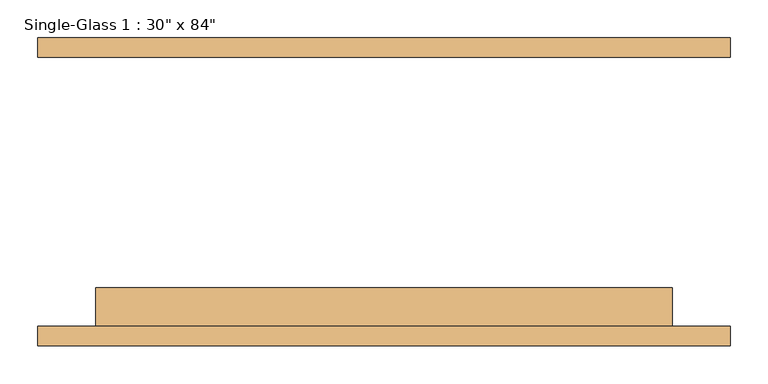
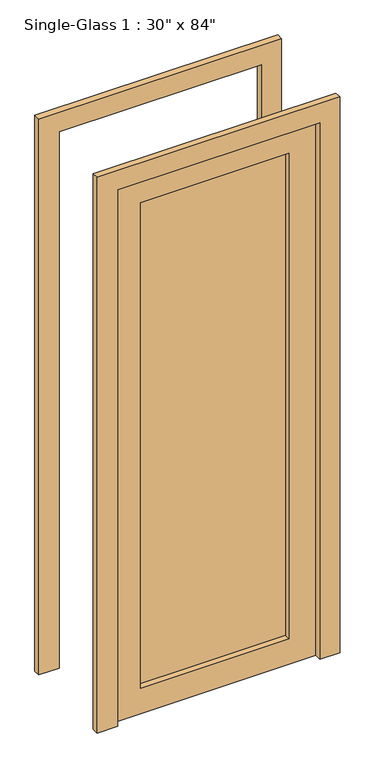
"""IFC4 building model written with IfcOpenShell, lengths in millimetres: door geometry."""

import ifcopenshell
import ifcopenshell.guid

model = None  # the IFC model being written
_history = None  # IfcOwnerHistory: only IFC2X3 demands one
_inside = {}  # id of a spatial element -> (the spatial element, [elements in it])
_under = {}  # id of a project, library or spatial element -> (it, [spatial elements below it])
_declared = {}  # id of a project -> (the project, [libraries it declares])
_typed = {}  # id of a type object -> (the type object, [elements of that type])
_made_of = {}  # id of a material, layer set ... -> (it, [elements and type objects made of it])


def new_model(schema):
    """Start an empty IFC model of exactly this schema.

    Asked for "IFC4X3", IfcOpenShell would pick the latest addendum, in which some entities
    have other attributes; the version numbers below select the first issue.
    IFC2X3 requires an IfcOwnerHistory on every rooted entity: one is made here for all.
    """
    global model, _history
    if schema == "IFC4X3":
        model = ifcopenshell.file(schema_version=(4, 3, 0, 0))
    else:
        model = ifcopenshell.file(schema=schema)
    _inside.clear()
    _under.clear()
    _declared.clear()
    _typed.clear()
    _made_of.clear()
    _history = None
    if model.schema == "IFC2X3":
        org = make("IfcOrganization", Name="unknown")
        user = make(
            "IfcPersonAndOrganization",
            ThePerson=make("IfcPerson", FamilyName="unknown"),
            TheOrganization=org,
        )
        app = make(
            "IfcApplication",
            ApplicationDeveloper=org,
            Version="unknown",
            ApplicationFullName="unknown",
            ApplicationIdentifier="unknown",
        )
        _history = make(
            "IfcOwnerHistory",
            OwningUser=user,
            OwningApplication=app,
            ChangeAction="ADDED",
            CreationDate=0,
        )
    return model


def make(cls, **values):
    """One entity of the class cls with the attributes given. An attribute that is None is left unset."""
    return model.create_entity(
        cls, **{name: value for name, value in values.items() if value is not None}
    )


def rooted(cls, **values):
    """An entity with a GlobalId (a new one), such as an element, a storey or a relation."""
    return make(cls, GlobalId=ifcopenshell.guid.new(), OwnerHistory=_history, **values)


def si_unit(unit_type, name, prefix=None):
    """IfcSIUnit, for example si_unit("LENGTHUNIT", "METRE", prefix="MILLI")."""
    return make("IfcSIUnit", UnitType=unit_type, Prefix=prefix, Name=name)


def assignment(units):
    """IfcUnitAssignment: the units of a project."""
    return None if units is None else make("IfcUnitAssignment", Units=units)


def point(xyz):
    """IfcCartesianPoint."""
    return None if xyz is None else make("IfcCartesianPoint", Coordinates=xyz)


def direction(xyz):
    """IfcDirection."""
    return None if xyz is None else make("IfcDirection", DirectionRatios=xyz)


def frame(location, z_axis=None, x_axis=None):
    """IfcAxis2Placement3D, a coordinate frame: its origin and axes. An axis left out is left unset."""
    return make(
        "IfcAxis2Placement3D",
        Location=point(location),
        Axis=direction(z_axis),
        RefDirection=direction(x_axis),
    )


def origin():
    """The frame at (0, 0, 0) with its axes left unset."""
    return frame((0.0, 0.0, 0.0))


def place(relative_to, where):
    """IfcLocalPlacement: puts the frame where relative to a parent placement (None: the world)."""
    return make(
        "IfcLocalPlacement", PlacementRelTo=relative_to, RelativePlacement=where
    )


def context(
    kind, dimensions, precision=None, world=None, true_north=None, identifier=None
):
    """IfcGeometricRepresentationContext, for example the 3D "Model" context."""
    return make(
        "IfcGeometricRepresentationContext",
        ContextIdentifier=identifier,
        ContextType=kind,
        CoordinateSpaceDimension=dimensions,
        Precision=precision,
        WorldCoordinateSystem=world,
        TrueNorth=true_north,
    )


def project(units=None, contexts=None):
    """IfcProject with its units and contexts."""
    return rooted(
        "IfcProject",
        Name="project",
        RepresentationContexts=contexts,
        UnitsInContext=assignment(units),
    )


def spatial(cls, under=None, at=None, **own):
    """A site, building, storey or space (cls), placed at a placement, below another one or the project."""
    s = rooted(cls, ObjectPlacement=at, **own)
    if under is not None:
        _under.setdefault(under.id(), (under, []))[1].append(s)
    return s


def polyline(points):
    """IfcPolyline through the points."""
    return make("IfcPolyline", Points=[point(p) for p in points])


def outline(outer, holes=None, kind="AREA"):
    """IfcArbitraryClosedProfileDef: a profile drawn as a closed curve; with holes, ...WithVoids."""
    if holes is None:
        return make("IfcArbitraryClosedProfileDef", ProfileType=kind, OuterCurve=outer)
    return make(
        "IfcArbitraryProfileDefWithVoids",
        ProfileType=kind,
        OuterCurve=outer,
        InnerCurves=holes,
    )


def extrude(swept, where, along, depth):
    """IfcExtrudedAreaSolid: the profile swept, set in the frame where, extruded along a direction by depth."""
    return make(
        "IfcExtrudedAreaSolid",
        SweptArea=swept,
        Position=where,
        ExtrudedDirection=direction(along),
        Depth=depth,
    )


def shape(context_of_items, identifier, shape_type, items):
    """IfcShapeRepresentation: the items that make up one representation, for example the "Body"."""
    return make(
        "IfcShapeRepresentation",
        ContextOfItems=context_of_items,
        RepresentationIdentifier=identifier,
        RepresentationType=shape_type,
        Items=items,
    )


def source(mapping_origin, context_of_items, identifier, shape_type, items):
    """IfcRepresentationMap: a shape defined once, which mapped items show again and again."""
    return make(
        "IfcRepresentationMap",
        MappingOrigin=mapping_origin,
        MappedRepresentation=shape(context_of_items, identifier, shape_type, items),
    )


def transform(
    local_origin,
    x_axis=None,
    y_axis=None,
    z_axis=None,
    scale=None,
    scale2=None,
    scale3=None,
    uniform=True,
):
    """IfcCartesianTransformationOperator3D, or its non-uniform kind. x_axis, y_axis, z_axis: its Axis1, 2, 3."""
    if uniform:
        return make(
            "IfcCartesianTransformationOperator3D",
            Axis1=direction(x_axis),
            Axis2=direction(y_axis),
            LocalOrigin=point(local_origin),
            Scale=scale,
            Axis3=direction(z_axis),
        )
    return make(
        "IfcCartesianTransformationOperator3DnonUniform",
        Axis1=direction(x_axis),
        Axis2=direction(y_axis),
        LocalOrigin=point(local_origin),
        Scale=scale,
        Axis3=direction(z_axis),
        Scale2=scale2,
        Scale3=scale3,
    )


def mapped(mapping_source, mapping_target):
    """IfcMappedItem: shows the shape of a source again, moved by a transform."""
    return make(
        "IfcMappedItem", MappingSource=mapping_source, MappingTarget=mapping_target
    )


def made_of(thing, what):
    """Note that an element or type object is made of a material, layer set ...; save() writes the relation."""
    if what is not None:
        _made_of.setdefault(what.id(), (what, []))[1].append(thing)
    return thing


def element(
    cls,
    number,
    at=None,
    inside=None,
    cuts=None,
    type_object=None,
    material=None,
    context=None,
    identifier="Body",
    shape_type=None,
    held_by="IfcProductDefinitionShape",
    body=None,
    shapes=None,
    **own,
):
    """One element of the class cls, such as IfcWall. Its Tag is "e" and its number.

    at: its placement. inside: the storey or other place that contains it. cuts: it is an
    opening in that element (IfcRelVoidsElement). A single representation is given by context,
    identifier, shape_type and body (its items); several are given by shapes. held_by: the class
    of the entity that holds the representations. save() writes the other relations.
    """
    e = rooted(cls, Tag="e%d" % number, ObjectPlacement=at, **own)
    if body is not None:
        shapes = [shape(context, identifier, shape_type, body)]
    if shapes is not None:
        e.Representation = make(held_by, Representations=shapes)
    if inside is not None:
        _inside.setdefault(inside.id(), (inside, []))[1].append(e)
    if cuts is not None:
        rooted(
            "IfcRelVoidsElement", RelatingBuildingElement=cuts, RelatedOpeningElement=e
        )
    if type_object is not None:
        _typed.setdefault(type_object.id(), (type_object, []))[1].append(e)
    return made_of(e, material)


def aggregate(whole, parts):
    """IfcRelAggregates: a whole, such as a stair, and the parts it consists of."""
    return rooted("IfcRelAggregates", RelatingObject=whole, RelatedObjects=parts)


def save(model, path):
    """Write the relations noted so far, then the file.

    IfcRelAggregates (storeys below a building ...), IfcRelContainedInSpatialStructure (elements
    in a storey), IfcRelDefinesByType, IfcRelAssociatesMaterial and IfcRelDeclares: one each for
    every whole, place, type object, material and project.
    """
    for whole, parts in _under.values():
        aggregate(whole, parts)
    for where, things in _inside.values():
        rooted(
            "IfcRelContainedInSpatialStructure",
            RelatedElements=things,
            RelatingStructure=where,
        )
    for kind, things in _typed.values():
        rooted("IfcRelDefinesByType", RelatedObjects=things, RelatingType=kind)
    for what, things in _made_of.values():
        rooted("IfcRelAssociatesMaterial", RelatedObjects=things, RelatingMaterial=what)
    for by, libraries in _declared.values():
        rooted("IfcRelDeclares", RelatingContext=by, RelatedDefinitions=libraries)
    model.write(path)


def door_c5ae8584(model_context):
    return source(origin(), model_context, "Body", "SweptSolid", [
        extrude(outline(polyline([(2133.6, 381.0), (0.0, 381.0), (0.0, 457.2), (2209.8, 457.2), (2209.8, -457.2), (0.0, -457.2), (0.0, -381.0), (2133.6, -381.0), (2133.6, 381.0)])), frame((0.0, 177.8, 0.0), z_axis=(0.0, 1.0, 0.0), x_axis=(0.0, 0.0, 1.0)), (0.0, 0.0, 1.0), 25.4),
        extrude(outline(polyline([(2133.6, 381.0), (0.0, 381.0), (0.0, 457.2), (2209.8, 457.2), (2209.8, -457.2), (0.0, -457.2), (0.0, -381.0), (2133.6, -381.0), (2133.6, 381.0)])), frame((0.0, -203.2, 0.0), z_axis=(0.0, 1.0, 0.0), x_axis=(0.0, 0.0, 1.0)), (0.0, 0.0, 1.0), 25.4),
        extrude(outline(polyline([(279.4, -149.225), (279.4, -155.575), (-279.4, -155.575), (-279.4, -149.225), (279.4, -149.225)])), frame((0.0, 0.0, 101.6), z_axis=(0.0, 0.0, 1.0), x_axis=(1.0, 0.0, 0.0)), (0.0, 0.0, 1.0), 1930.4),
        extrude(outline(polyline([(2133.6, 381.0), (2133.6, -381.0), (0.0, -381.0), (0.0, 381.0), (2133.6, 381.0)]), holes=[polyline([(2032.0, -279.4), (2032.0, 279.4), (101.6, 279.4), (101.6, -279.4), (2032.0, -279.4)])]), frame((0.0, -177.8, 0.0), z_axis=(0.0, 1.0, 0.0), x_axis=(0.0, 0.0, 1.0)), (0.0, 0.0, 1.0), 50.8),
    ])


if __name__ == "__main__":
    model = new_model("IFC4")
    model_context = context("Model", 3, world=origin())
    ifc_project = project(units=[si_unit("LENGTHUNIT", "METRE", prefix="MILLI")], contexts=[model_context])
    site = spatial("IfcSite", under=ifc_project)
    building = spatial("IfcBuilding", under=site)
    placement = place(None, origin())
    door_shape = door_c5ae8584(model_context)
    element("IfcDoor", 1, ObjectType="Single-Glass 1 : 30\" x 84\"", at=placement, inside=building, context=model_context, shape_type="MappedRepresentation", body=[
        mapped(door_shape, transform((0.0, 0.0, 0.0), x_axis=(1.0, 0.0, 0.0), y_axis=(0.0, 1.0, 0.0), z_axis=(0.0, 0.0, 1.0))),
    ])
    save(model, "model.ifc")
